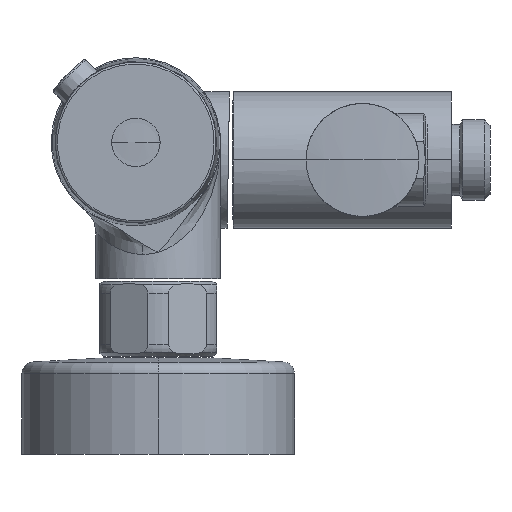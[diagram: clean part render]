
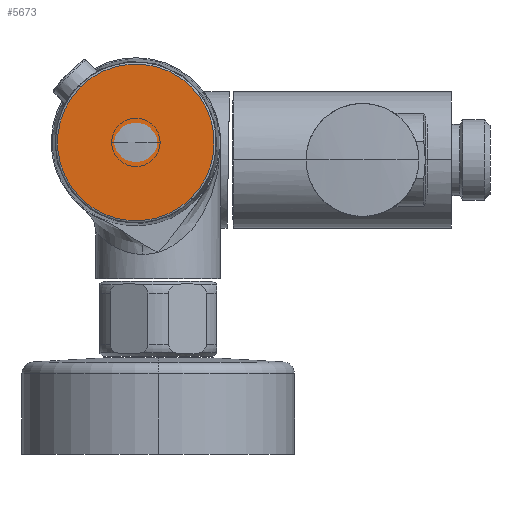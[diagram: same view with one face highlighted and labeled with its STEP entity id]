
A CAD part, left-side view. The second image highlights one B-rep face of the part: STEP entity #5673.
In plain terms, the highlighted planar face has unit normal (-1, 0, 0).
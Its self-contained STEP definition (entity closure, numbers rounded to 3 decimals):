
#5148=CARTESIAN_POINT('',(-137.8,0.,0.));
#5149=DIRECTION('',(-1.,0.,0.));
#5150=DIRECTION('',(0.,0.707,0.707));
#5151=AXIS2_PLACEMENT_3D('',#5148,#5149,#5150);
#5153=CARTESIAN_POINT('',(-137.8,0.,0.));
#5154=DIRECTION('',(-1.,0.,0.));
#5155=DIRECTION('',(0.,-0.707,-0.707));
#5156=AXIS2_PLACEMENT_3D('',#5153,#5154,#5155);
#5167=CARTESIAN_POINT('',(-137.8,14.241,14.241));
#5168=CARTESIAN_POINT('',(-137.8,-14.241,-14.241));
#5169=VERTEX_POINT('',#5167);
#5170=VERTEX_POINT('',#5168);
#5663=CARTESIAN_POINT('',(-137.8,0.,0.));
#5664=DIRECTION('',(1.,0.,0.));
#5665=DIRECTION('',(0.,-0.707,-0.707));
#5666=AXIS2_PLACEMENT_3D('',#5663,#5664,#5665);
#5667=PLANE('',#5666);
#5668=ORIENTED_EDGE('',*,*,#5653,.F.);
#5670=ORIENTED_EDGE('',*,*,#5669,.F.);
#5671=EDGE_LOOP('',(#5668,#5670));
#5672=FACE_OUTER_BOUND('',#5671,.F.);
#5673=ADVANCED_FACE('',(#5672),#5667,.F.);
#5152=CIRCLE('',#5151,20.139);
#5157=CIRCLE('',#5156,20.139);
#5653=EDGE_CURVE('',#5169,#5170,#5152,.T.);
#5669=EDGE_CURVE('',#5170,#5169,#5157,.T.);
